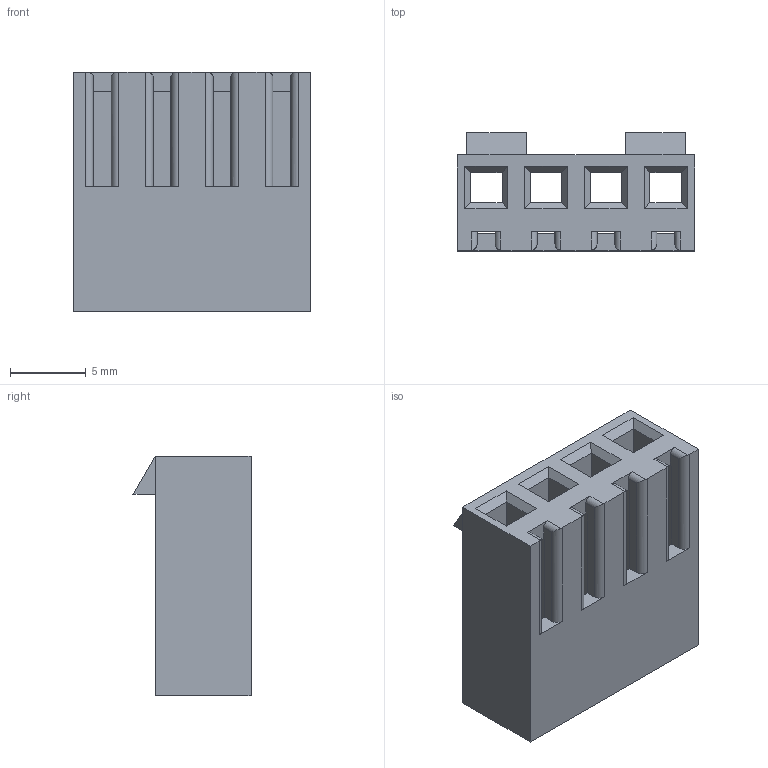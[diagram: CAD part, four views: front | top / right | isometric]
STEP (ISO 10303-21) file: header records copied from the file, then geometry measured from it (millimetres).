
FILE_DESCRIPTION((''),'2;1');
FILE_NAME('009503041','2010-01-07T',('pnb'),(''),'PRO/ENGINEER BY PARAMETRIC TECHNOLOGY CORPORATION, 2003451','PRO/ENGINEER BY PARAMETRIC TECHNOLOGY CORPORATION, 2003451','');
FILE_SCHEMA(('CONFIG_CONTROL_DESIGN'));
Length unit declared in the file: inch
Products named in the file (1): 009503041
Bounding box: 15.75 x 7.82 x 15.88 mm (x, y, z)
Volume: 1031.4 mm3; surface area: 1641.8 mm2
Topology: 1 solids, 1 shells, 86 faces, 263 edges, 178 vertices
Faces by surface type: plane 70, cylinder 16
Entity records: 2984 total; most frequent: CARTESIAN_POINT 574, ORIENTED_EDGE 512, DIRECTION 453, EDGE_CURVE 256, VECTOR 231, LINE 231, VERTEX_POINT 164, AXIS2_PLACEMENT_3D 111
